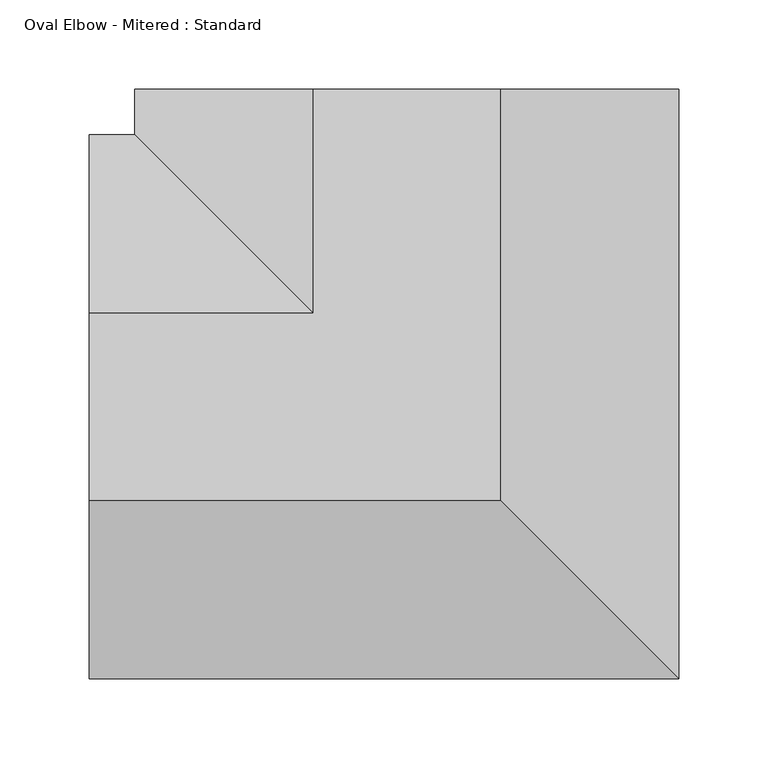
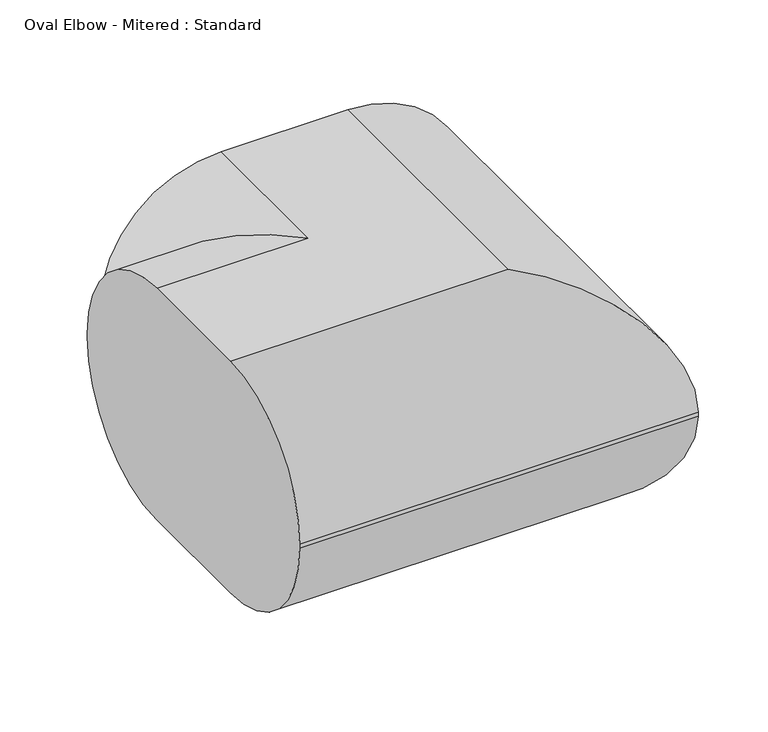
"""IFC4 building model written with IfcOpenShell, lengths in millimetres: duct fitting geometry, Oval Elbow - Mitered : Standard."""

from ifc_helpers import new_model, si_unit, frame, origin, place, context, project, spatial, circle_curve, ellipse_curve, source, transform, mapped, element, save
from ifc_brep_helpers import plane_surface, cylinder_surface, advanced_brep


def oval_elbow_mitered_standard_b72006ba(model_context):
    return source(origin(), model_context, "Body", "AdvancedBrep", [
        advanced_brep(
        [(-177.8, -52.3875, 101.6), (-177.8, 52.3875, 101.6), (-177.8, 152.4, 1.5875), (-177.8, 152.4, -1.5875), (-177.8, 52.3875, -101.6), (-177.8, -52.3875, -101.6), (-177.8, -152.4, -1.5875), (-177.8, -152.4, 1.5875), (52.3875, -52.3875, 101.6), (52.3875, 177.8, 101.6), (-52.3875, 177.8, 101.6), (-52.3875, 52.3875, 101.6), (-152.4, 152.4, 1.5875), (-152.4, 152.4, -1.5875), (-52.3875, 52.3875, -101.6), (-52.3875, 177.8, -101.6), (52.3875, 177.8, -101.6), (52.3875, -52.3875, -101.6), (152.4, -152.4, -1.5875), (152.4, -152.4, 1.5875), (152.4, 177.8, 1.5875), (152.4, 177.8, -1.5875), (-152.4, 177.8, -1.5875), (-152.4, 177.8, 1.5875)],
        [
            (0, 1),
            (1, 2, circle_curve(frame((-177.8, 52.3875, 1.5875), z_axis=(-1.0, 0.0, 0.0), x_axis=(0.0, 1.0, 0.0)), 100.0125)),
            (2, 3),
            (3, 4, circle_curve(frame((-177.8, 52.3875, -1.5875), z_axis=(-1.0, 0.0, 0.0), x_axis=(0.0, 1.0, 0.0)), 100.0125)),
            (4, 5),
            (5, 6, circle_curve(frame((-177.8, -52.3875, -1.5875), z_axis=(-1.0, 0.0, 0.0), x_axis=(0.0, 1.0, 0.0)), 100.0125)),
            (6, 7),
            (7, 0, circle_curve(frame((-177.8, -52.3875, 1.5875), z_axis=(-1.0, 0.0, 0.0), x_axis=(0.0, 1.0, 0.0)), 100.0125)),
            (0, 8),
            (8, 9),
            (9, 10),
            (10, 11),
            (11, 1),
            (11, 12, ellipse_curve(frame((-52.3875, 52.3875, 1.5875), z_axis=(-0.7071067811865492, -0.7071067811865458, 0.0), x_axis=(-0.7071067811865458, 0.7071067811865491, 0.0)), 141.4390339, 100.0125)),
            (12, 2),
            (12, 13),
            (13, 3),
            (13, 14, ellipse_curve(frame((-52.3875, 52.3875, -1.5875), z_axis=(-0.7071067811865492, -0.7071067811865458, 0.0), x_axis=(-0.7071067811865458, 0.7071067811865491, 0.0)), 141.4390339, 100.0125)),
            (14, 4),
            (14, 15),
            (15, 16),
            (16, 17),
            (17, 5),
            (17, 18, ellipse_curve(frame((52.3875, -52.3875, -1.5875), z_axis=(-0.7071067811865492, -0.7071067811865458, 0.0), x_axis=(-0.7071067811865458, 0.7071067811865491, 0.0)), 141.4390339, 100.0125)),
            (18, 6),
            (18, 19),
            (19, 7),
            (19, 8, ellipse_curve(frame((52.3875, -52.3875, 1.5875), z_axis=(-0.7071067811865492, -0.7071067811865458, 0.0), x_axis=(-0.7071067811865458, 0.7071067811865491, 0.0)), 141.4390339, 100.0125)),
            (9, 20, circle_curve(frame((52.3875, 177.8, 1.5875), z_axis=(0.0, 1.0, 0.0), x_axis=(-1.0, 0.0, 0.0)), 100.0125)),
            (20, 21),
            (21, 16, circle_curve(frame((52.3875, 177.8, -1.5875), z_axis=(0.0, 1.0, 0.0), x_axis=(-1.0, 0.0, 0.0)), 100.0125)),
            (15, 22, circle_curve(frame((-52.3875, 177.8, -1.5875), z_axis=(0.0, 1.0, 0.0), x_axis=(-1.0, 0.0, 0.0)), 100.0125)),
            (22, 23),
            (23, 10, circle_curve(frame((-52.3875, 177.8, 1.5875), z_axis=(0.0, 1.0, 0.0), x_axis=(-1.0, 0.0, 0.0)), 100.0125)),
            (23, 12),
            (22, 13),
            (21, 18),
            (20, 19),
        ],
        [
            plane_surface(frame((-177.8, 0.0, 0.0), z_axis=(-1.0, 0.0, 0.0), x_axis=(0.0, 0.0, 1.0))),
            plane_surface(frame((-177.8, -52.3875, 101.6), z_axis=(0.0, 0.0, 1.0), x_axis=(1.0, 0.0, 0.0))),
            cylinder_surface(frame((-177.8, 52.3875, 1.5875), z_axis=(-1.0, 0.0, 0.0), x_axis=(0.0, 1.0, 0.0)), 100.0125),
            plane_surface(frame((-177.8, 152.4, 1.5875), z_axis=(0.0, 1.0, 0.0), x_axis=(1.0, 0.0, 0.0))),
            cylinder_surface(frame((-177.8, 52.3875, -1.5875), z_axis=(-1.0, 0.0, 0.0), x_axis=(0.0, 1.0, 0.0)), 100.0125),
            plane_surface(frame((-177.8, 52.3875, -101.6), z_axis=(0.0, 0.0, -1.0), x_axis=(1.0, 0.0, 0.0))),
            cylinder_surface(frame((-177.8, -52.3875, -1.5875), z_axis=(-1.0, 0.0, 0.0), x_axis=(0.0, 1.0, 0.0)), 100.0125),
            plane_surface(frame((-177.8, -152.4, -1.5875), z_axis=(0.0, -1.0, 0.0), x_axis=(1.0, 0.0, 0.0))),
            cylinder_surface(frame((-177.8, -52.3875, 1.5875), z_axis=(-1.0, 0.0, 0.0), x_axis=(0.0, 1.0, 0.0)), 100.0125),
            plane_surface(frame((0.0, 177.8, 0.0), z_axis=(0.0, 1.0, 0.0), x_axis=(0.0, 0.0, 1.0))),
            cylinder_surface(frame((-52.3875, 0.0, 1.5875), z_axis=(0.0, -1.0, 0.0), x_axis=(-1.0, 0.0, 0.0)), 100.0125),
            plane_surface(frame((-152.4, 152.4, 1.5875), z_axis=(-1.0, 0.0, 0.0), x_axis=(0.0, 1.0, 0.0))),
            cylinder_surface(frame((-52.3875, 0.0, -1.5875), z_axis=(0.0, -1.0, 0.0), x_axis=(-1.0, 0.0, 0.0)), 100.0125),
            cylinder_surface(frame((52.3875, 0.0, -1.5875), z_axis=(0.0, -1.0, 0.0), x_axis=(-1.0, 0.0, 0.0)), 100.0125),
            plane_surface(frame((152.4, -152.4, -1.5875), z_axis=(1.0, 0.0, 0.0), x_axis=(0.0, 1.0, 0.0))),
            cylinder_surface(frame((52.3875, 0.0, 1.5875), z_axis=(0.0, -1.0, 0.0), x_axis=(-1.0, 0.0, 0.0)), 100.0125),
        ],
        [
            (0, [[1, 2, 3, 4, 5, 6, 7, 8]]),
            (1, [[-1, 9, 10, 11, 12, 13]]),
            (2, [[-2, -13, 14, 15]]),
            (3, [[-3, -15, 16, 17]]),
            (4, [[-4, -17, 18, 19]]),
            (5, [[-5, -19, 20, 21, 22, 23]]),
            (6, [[-6, -23, 24, 25]]),
            (7, [[-7, -25, 26, 27]]),
            (8, [[-8, -27, 28, -9]]),
            (9, [[29, 30, 31, -21, 32, 33, 34, -11]]),
            (10, [[-14, -12, -34, 35]]),
            (11, [[-16, -35, -33, 36]]),
            (12, [[-18, -36, -32, -20]]),
            (13, [[-24, -22, -31, 37]]),
            (14, [[-26, -37, -30, 38]]),
            (15, [[-28, -38, -29, -10]]),
        ],
    ),
    ])


if __name__ == "__main__":
    model = new_model("IFC4")
    model_context = context("Model", 3, world=origin())
    ifc_project = project(units=[si_unit("LENGTHUNIT", "METRE", prefix="MILLI")], contexts=[model_context])
    site = spatial("IfcSite", under=ifc_project)
    building = spatial("IfcBuilding", under=site)
    placement = place(None, origin())
    oval_elbow_mitered_standard_shape = oval_elbow_mitered_standard_b72006ba(model_context)
    element("IfcDuctFitting", 1, ObjectType="Oval Elbow - Mitered : Standard", at=placement, inside=building, context=model_context, shape_type="MappedRepresentation", body=[
        mapped(oval_elbow_mitered_standard_shape, transform((0.0, 0.0, 0.0), x_axis=(1.0, 0.0, 0.0), y_axis=(0.0, 1.0, 0.0), z_axis=(0.0, 0.0, 1.0))),
    ])
    save(model, "model.ifc")
